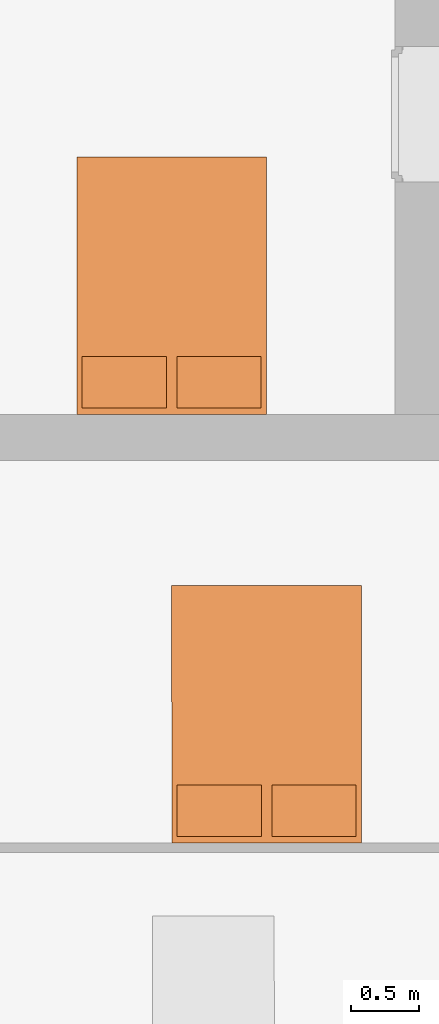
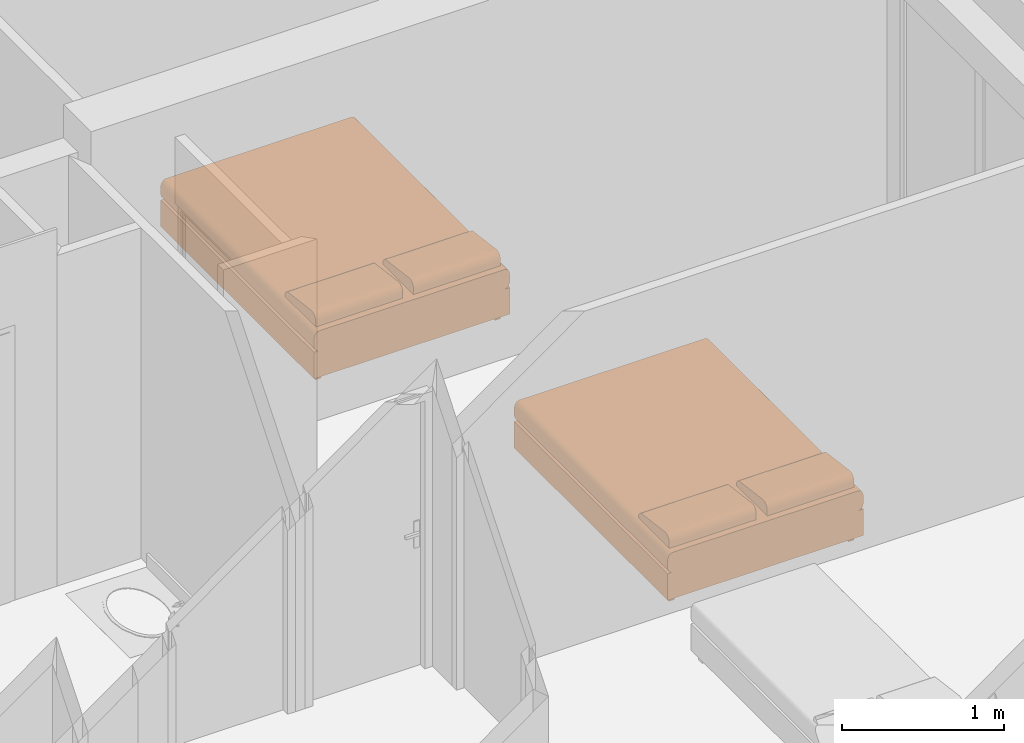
# One storey, part 154 of 171: 2 proxies.
"""IFC2X3 building model written with IfcOpenShell, lengths in millimetres."""

from ifc_helpers import new_model, entity, si_unit, converted_unit, derived_unit, money_unit, direction, frame, origin_with_axes, place, context, subcontext, project, spatial, open_shell, faceted_brep, surface_model, source, transform, mapped, type_object, element, save


model = new_model("IFC2X3")

# Units and contexts
model_context = context("Model", 3, precision=0.01, world=origin_with_axes(), true_north=direction((0.0, 1.0)))
body_context = subcontext(model_context, "Body", "Model", "MODEL_VIEW")
ifc_project = project(units=[si_unit("LENGTHUNIT", "METRE", prefix="MILLI"), si_unit("AREAUNIT", "SQUARE_METRE"), si_unit("VOLUMEUNIT", "CUBIC_METRE"), converted_unit("PLANEANGLEUNIT", "DEGREE", entity("IfcPlaneAngleMeasure", 0.0174532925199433), si_unit("PLANEANGLEUNIT", "RADIAN"), dimensions=[0, 0, 0, 0, 0, 0, 0]), money_unit("USD"), converted_unit("TIMEUNIT", "Year", entity("IfcTimeMeasure", 31557600.0), si_unit("TIMEUNIT", "SECOND"), dimensions=[0, 0, 1, 0, 0, 0, 0]), si_unit("MASSUNIT", "GRAM", prefix="KILO"), si_unit("THERMODYNAMICTEMPERATUREUNIT", "DEGREE_CELSIUS"), si_unit("LUMINOUSINTENSITYUNIT", "LUMEN"), si_unit("ENERGYUNIT", "JOULE", prefix="MEGA"), derived_unit("THERMALCONDUCTANCEUNIT", [(si_unit("POWERUNIT", "WATT"), 1), (si_unit("LENGTHUNIT", "METRE"), -1), (si_unit("THERMODYNAMICTEMPERATUREUNIT", "KELVIN"), -1)]), derived_unit("SPECIFICHEATCAPACITYUNIT", [(si_unit("ENERGYUNIT", "JOULE"), 1), (si_unit("MASSUNIT", "GRAM", prefix="KILO"), -1), (si_unit("THERMODYNAMICTEMPERATUREUNIT", "KELVIN"), -1)]), derived_unit("MASSDENSITYUNIT", [(si_unit("MASSUNIT", "GRAM", prefix="KILO"), 1), (si_unit("VOLUMEUNIT", "CUBIC_METRE"), -1)])], contexts=[model_context])

# Site, building, storey
site_placement = place(None, origin_with_axes())
site = spatial("IfcSite", under=ifc_project, at=site_placement, Name="Site", CompositionType="ELEMENT")
building_placement = place(site_placement, origin_with_axes())
building = spatial("IfcBuilding", under=site, at=building_placement, Name="Bâtiment", CompositionType="ELEMENT")
storey_placement = place(building_placement, frame((0.0, 0.0, 3000.0), z_axis=(0.0, 0.0, 1.0), x_axis=(1.0, 0.0, 0.0)))
storey = spatial("IfcBuildingStorey", under=building, at=storey_placement, Name="rdc", CompositionType="ELEMENT", Elevation=3000.0)

# Proxies
building_element_proxy_type = type_object("IfcBuildingElementProxyType", PredefinedType="NOTDEFINED")
shared_shape_1 = source(origin_with_axes(), body_context, "Body", "SurfaceModel", [
    faceted_brep([(622.2222222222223, -95.0, 0.0), (622.2222222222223, -47.5, 0.0), (661.1111111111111, -47.5, 0.0), (661.1111111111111, -95.0, 0.0), (622.2222222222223, -95.0, 50.0), (622.2222222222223, -47.5, 50.0), (661.1111111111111, -47.5, 50.0), (661.1111111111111, -95.0, 50.0)], [[[0, 1, 2, 3]], [[0, 4, 5, 1]], [[1, 5, 6, 2]], [[2, 6, 7, 3]], [[3, 7, 4, 0]], [[7, 6, 5, 4]]]),
    faceted_brep([(622.2222222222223, -1852.5, 0.0), (622.2222222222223, -1805.0, 0.0), (661.1111111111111, -1805.0, 0.0), (661.1111111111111, -1852.5, 0.0), (622.2222222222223, -1852.5, 50.0), (622.2222222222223, -1805.0, 50.0), (661.1111111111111, -1805.0, 50.0), (661.1111111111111, -1852.5, 50.0)], [[[0, 1, 2, 3]], [[0, 4, 5, 1]], [[1, 5, 6, 2]], [[2, 6, 7, 3]], [[3, 7, 4, 0]], [[7, 6, 5, 4]]]),
    faceted_brep([(-661.111111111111, -1852.5, 0.0), (-661.111111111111, -1805.0, 0.0), (-622.2222222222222, -1805.0, 0.0), (-622.2222222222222, -1852.5, 0.0), (-661.111111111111, -1852.5, 50.0), (-661.111111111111, -1805.0, 50.0), (-622.2222222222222, -1805.0, 50.0), (-622.2222222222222, -1852.5, 50.0)], [[[0, 1, 2, 3]], [[0, 4, 5, 1]], [[1, 5, 6, 2]], [[2, 6, 7, 3]], [[3, 7, 4, 0]], [[7, 6, 5, 4]]]),
    faceted_brep([(-661.111111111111, -94.99999999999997, 0.0), (-661.111111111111, -47.49999999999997, 0.0), (-622.2222222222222, -47.49999999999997, 0.0), (-622.2222222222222, -94.99999999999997, 0.0), (-661.111111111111, -94.99999999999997, 50.0), (-661.111111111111, -47.49999999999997, 50.0), (-622.2222222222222, -47.49999999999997, 50.0), (-622.2222222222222, -94.99999999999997, 50.0)], [[[0, 1, 2, 3]], [[0, 4, 5, 1]], [[1, 5, 6, 2]], [[2, 6, 7, 3]], [[3, 7, 4, 0]], [[7, 6, 5, 4]]]),
    faceted_brep([(700.0, 0.0, 50.0), (700.0, -1900.0, 50.00000000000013), (-700.0, -1900.0, 50.00000000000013), (-700.0, 0.0, 50.0), (700.0, 0.0, 250.0), (700.0, -1900.0, 250.0000000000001), (-700.0, -1900.0, 250.0000000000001), (-700.0, 0.0, 250.0)], [[[0, 1, 2, 3]], [[4, 5, 1, 0]], [[1, 5, 6, 2]], [[3, 2, 6, 7]], [[0, 3, 7, 4]], [[7, 6, 5, 4]]]),
    surface_model("IfcShellBasedSurfaceModel", [(-661.1111111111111, 0.0, 250.0), (-661.1111111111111, -1900.0, 250.0000000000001), (-667.8640957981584, -1900.0, 250.7596123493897), (-667.8640957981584, 0.0, 250.7596123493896), (661.1111111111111, -1900.0, 250.0000000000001), (667.8640957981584, -1900.0, 250.7596123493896), (674.4118944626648, -1900.0, 253.0153689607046), (680.5555555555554, -1900.0, 256.6987298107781), (686.1084070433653, -1900.0, 261.6977778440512), (690.9017283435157, -1900.0, 267.8606195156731), (694.7898768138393, -1900.0, 275.0000000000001), (697.654713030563, -1900.0, 282.8989928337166), (699.4091903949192, -1900.0, 291.3175911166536), (700.0, -1900.0, 300.0000000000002), (700.0000000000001, -1900.0, 350.0000000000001), (699.4091903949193, -1900.0, 358.6824088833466), (697.654713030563, -1900.0, 367.1010071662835), (694.7898768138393, -1900.0, 375.0000000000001), (690.9017283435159, -1900.0, 382.1393804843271), (686.1084070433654, -1900.0, 388.302222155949), (680.5555555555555, -1900.0, 393.3012701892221), (674.4118944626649, -1900.0, 396.9846310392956), (667.8640957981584, -1900.0, 399.2403876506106), (661.1111111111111, -1900.0, 400.0000000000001), (-661.111111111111, -1900.0, 400.0000000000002), (-667.8640957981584, -1900.0, 399.2403876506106), (-674.4118944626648, -1900.0, 396.9846310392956), (-680.5555555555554, -1900.0, 393.3012701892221), (-686.1084070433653, -1900.0, 388.302222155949), (-690.9017283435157, -1900.0, 382.1393804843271), (-694.7898768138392, -1900.0, 375.0000000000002), (-697.654713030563, -1900.0, 367.1010071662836), (-699.4091903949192, -1900.0, 358.6824088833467), (-700.0, -1900.0, 350.0000000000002), (-700.0, -1900.0, 300.0000000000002), (-699.4091903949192, -1900.0, 291.3175911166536), (-697.654713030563, -1900.0, 282.8989928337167), (-694.7898768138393, -1900.0, 275.0000000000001), (-690.9017283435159, -1900.0, 267.8606195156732), (-686.1084070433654, -1900.0, 261.6977778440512), (-680.5555555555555, -1900.0, 256.6987298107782), (-674.4118944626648, -1900.0, 253.0153689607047), (-674.4118944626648, 0.0, 253.0153689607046), (661.1111111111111, 0.0, 250.0), (-680.5555555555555, 0.0, 256.698729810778), (-686.1084070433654, 0.0, 261.6977778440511), (-690.9017283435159, 0.0, 267.8606195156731), (-694.7898768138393, 0.0, 275.0), (-697.654713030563, 0.0, 282.8989928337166), (-699.4091903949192, 0.0, 291.3175911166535), (-700.0, 0.0, 300.0000000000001), (-700.0, 0.0, 350.0000000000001), (-699.4091903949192, 0.0, 358.6824088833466), (-697.654713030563, 0.0, 367.1010071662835), (-694.7898768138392, 0.0, 375.0000000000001), (-690.9017283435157, 0.0, 382.139380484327), (-686.1084070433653, 0.0, 388.3022221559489), (-680.5555555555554, 0.0, 393.301270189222), (-674.4118944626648, 0.0, 396.9846310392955), (-667.8640957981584, 0.0, 399.2403876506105), (-661.111111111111, 0.0, 400.0000000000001), (661.1111111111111, 0.0, 400.0), (667.8640957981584, 0.0, 399.2403876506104), (674.4118944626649, 0.0, 396.9846310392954), (680.5555555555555, 0.0, 393.301270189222), (686.1084070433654, 0.0, 388.3022221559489), (690.9017283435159, 0.0, 382.139380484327), (694.7898768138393, 0.0, 375.0), (697.654713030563, 0.0, 367.1010071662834), (699.4091903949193, 0.0, 358.6824088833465), (700.0000000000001, 0.0, 350.0), (700.0, 0.0, 300.0000000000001), (699.4091903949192, 0.0, 291.3175911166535), (697.654713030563, 0.0, 282.8989928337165), (694.7898768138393, 0.0, 275.0), (690.9017283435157, 0.0, 267.860619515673), (686.1084070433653, 0.0, 261.6977778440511), (680.5555555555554, 0.0, 256.698729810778), (674.4118944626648, 0.0, 253.0153689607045), (667.8640957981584, 0.0, 250.7596123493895)], [open_shell([[[0, 1, 2, 3]], [[4, 5, 6, 7, 8, 9, 10, 11, 12, 13, 14, 15, 16, 17, 18, 19, 20, 21, 22, 23, 24, 25, 26, 27, 28, 29, 30, 31, 32, 33, 34, 35, 36, 37, 38, 39, 40, 41, 2, 1]], [[3, 2, 41, 42]], [[43, 0, 3, 42, 44, 45, 46, 47, 48, 49, 50, 51, 52, 53, 54, 55, 56, 57, 58, 59, 60, 61, 62, 63, 64, 65, 66, 67, 68, 69, 70, 71, 72, 73, 74, 75, 76, 77, 78, 79]], [[79, 5, 4, 43]], [[78, 6, 5, 79]], [[77, 7, 6, 78]], [[76, 8, 7, 77]], [[75, 9, 8, 76]], [[74, 10, 9, 75]], [[73, 11, 10, 74]], [[72, 12, 11, 73]], [[71, 13, 12, 72]], [[70, 14, 13, 71]], [[69, 15, 14, 70]], [[68, 16, 15, 69]], [[67, 17, 16, 68]], [[66, 18, 17, 67]], [[65, 19, 18, 66]], [[64, 20, 19, 65]], [[63, 21, 20, 64]], [[62, 22, 21, 63]], [[61, 23, 22, 62]], [[60, 24, 23, 61]], [[59, 25, 24, 60]], [[58, 26, 25, 59]], [[57, 27, 26, 58]], [[56, 28, 27, 57]], [[55, 29, 28, 56]], [[54, 30, 29, 55]], [[53, 31, 30, 54]], [[52, 32, 31, 53]], [[51, 33, 32, 52]], [[50, 34, 33, 51]], [[49, 35, 34, 50]], [[48, 36, 35, 49]], [[47, 37, 36, 48]], [[46, 38, 37, 47]], [[45, 39, 38, 46]], [[44, 40, 39, 45]], [[42, 41, 40, 44]]])]),
    faceted_brep([(-38.88888888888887, -47.49999999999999, 400.0), (-661.1111111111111, -47.50000000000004, 400.0000000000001), (-661.1111111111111, -47.50000000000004, 443.4000000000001), (-38.88888888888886, -47.49999999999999, 443.4), (-38.88888888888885, -427.5, 400.0), (-661.1111111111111, -427.5, 400.0000000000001), (-661.1111111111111, -427.6960812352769, 408.6954428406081), (-661.1111111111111, -426.4675711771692, 417.2966661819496), (-661.1111111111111, -423.8511300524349, 425.5469991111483), (-661.1111111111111, -419.924835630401, 433.2002417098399), (-661.1111111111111, -414.8058532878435, 440.0280119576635), (-661.1111111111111, -408.6469396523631, 445.826560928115), (-661.1111111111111, -401.6318841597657, 450.4228529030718), (-661.1111111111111, -393.9700245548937, 453.6797289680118), (-661.1111111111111, -385.89, 455.5000000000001), (-661.1111111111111, -100.8900000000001, 493.0000000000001), (-661.1111111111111, -92.85488048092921, 493.3370808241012), (-661.1111111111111, -84.88093291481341, 492.2422169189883), (-661.1111111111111, -77.19681007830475, 489.7468034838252), (-661.1111111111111, -70.02285403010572, 485.922396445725), (-661.1111111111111, -63.56477780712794, 480.878660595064), (-661.1111111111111, -58.00776660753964, 474.7602249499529), (-661.1111111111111, -53.51116760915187, 467.7425355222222), (-661.1111111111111, -50.20392069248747, 460.0268244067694), (-661.1111111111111, -48.18086109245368, 451.8343394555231), (-38.88888888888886, -48.18086109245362, 451.834339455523), (-38.88888888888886, -50.20392069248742, 460.0268244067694), (-38.88888888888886, -53.51116760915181, 467.7425355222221), (-38.88888888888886, -58.00776660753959, 474.7602249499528), (-38.88888888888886, -63.56477780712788, 480.878660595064), (-38.88888888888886, -70.02285403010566, 485.922396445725), (-38.88888888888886, -77.19681007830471, 489.7468034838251), (-38.88888888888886, -84.88093291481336, 492.2422169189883), (-38.88888888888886, -92.85488048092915, 493.3370808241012), (-38.88888888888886, -100.89, 493.0000000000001), (-38.88888888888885, -385.89, 455.5), (-38.88888888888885, -393.9700245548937, 453.6797289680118), (-38.88888888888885, -401.6318841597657, 450.4228529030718), (-38.88888888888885, -408.6469396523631, 445.826560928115), (-38.88888888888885, -414.8058532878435, 440.0280119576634), (-38.88888888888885, -419.9248356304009, 433.2002417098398), (-38.88888888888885, -423.8511300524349, 425.5469991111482), (-38.88888888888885, -426.4675711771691, 417.2966661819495), (-38.88888888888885, -427.6960812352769, 408.695442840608)], [[[0, 1, 2, 3]], [[4, 5, 1, 0]], [[1, 5, 6, 7, 8, 9, 10, 11, 12, 13, 14, 15, 16, 17, 18, 19, 20, 21, 22, 23, 24, 2]], [[3, 2, 24, 25]], [[0, 3, 25, 26, 27, 28, 29, 30, 31, 32, 33, 34, 35, 36, 37, 38, 39, 40, 41, 42, 43, 4]], [[43, 6, 5, 4]], [[42, 7, 6, 43]], [[41, 8, 7, 42]], [[40, 9, 8, 41]], [[39, 10, 9, 40]], [[38, 11, 10, 39]], [[37, 12, 11, 38]], [[36, 13, 12, 37]], [[35, 14, 13, 36]], [[34, 15, 14, 35]], [[33, 16, 15, 34]], [[32, 17, 16, 33]], [[31, 18, 17, 32]], [[30, 19, 18, 31]], [[29, 20, 19, 30]], [[28, 21, 20, 29]], [[27, 22, 21, 28]], [[26, 23, 22, 27]], [[25, 24, 23, 26]]]),
    faceted_brep([(661.1111111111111, -47.49999999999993, 399.9999999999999), (38.88888888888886, -47.49999999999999, 400.0), (38.88888888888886, -47.49999999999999, 443.4), (661.1111111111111, -47.49999999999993, 443.4), (661.1111111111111, -427.4999999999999, 399.9999999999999), (38.88888888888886, -427.4999999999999, 400.0), (38.88888888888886, -427.6960812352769, 408.695442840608), (38.88888888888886, -426.4675711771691, 417.2966661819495), (38.88888888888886, -423.8511300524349, 425.5469991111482), (38.88888888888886, -419.9248356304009, 433.2002417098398), (38.88888888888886, -414.8058532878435, 440.0280119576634), (38.88888888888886, -408.6469396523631, 445.826560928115), (38.88888888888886, -401.6318841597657, 450.4228529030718), (38.88888888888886, -393.9700245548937, 453.6797289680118), (38.88888888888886, -385.8899999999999, 455.5), (38.88888888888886, -100.89, 493.0000000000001), (38.88888888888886, -92.85488048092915, 493.3370808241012), (38.88888888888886, -84.88093291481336, 492.2422169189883), (38.88888888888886, -77.19681007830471, 489.7468034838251), (38.88888888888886, -70.02285403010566, 485.922396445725), (38.88888888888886, -63.56477780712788, 480.878660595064), (38.88888888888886, -58.00776660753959, 474.7602249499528), (38.88888888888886, -53.51116760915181, 467.7425355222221), (38.88888888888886, -50.20392069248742, 460.0268244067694), (38.88888888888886, -48.18086109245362, 451.834339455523), (661.1111111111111, -48.18086109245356, 451.834339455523), (661.1111111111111, -50.20392069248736, 460.0268244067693), (661.1111111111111, -53.51116760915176, 467.7425355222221), (661.1111111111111, -58.00776660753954, 474.7602249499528), (661.1111111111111, -63.56477780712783, 480.8786605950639), (661.1111111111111, -70.0228540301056, 485.9223964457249), (661.1111111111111, -77.19681007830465, 489.7468034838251), (661.1111111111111, -84.8809329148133, 492.2422169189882), (661.1111111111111, -92.8548804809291, 493.3370808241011), (661.1111111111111, -100.89, 493.0), (661.1111111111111, -385.8899999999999, 455.4999999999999), (661.1111111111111, -393.9700245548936, 453.6797289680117), (661.1111111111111, -401.6318841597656, 450.4228529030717), (661.1111111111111, -408.646939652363, 445.8265609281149), (661.1111111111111, -414.8058532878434, 440.0280119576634), (661.1111111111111, -419.9248356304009, 433.2002417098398), (661.1111111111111, -423.8511300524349, 425.5469991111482), (661.1111111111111, -426.4675711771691, 417.2966661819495), (661.1111111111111, -427.6960812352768, 408.6954428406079)], [[[0, 1, 2, 3]], [[4, 5, 1, 0]], [[1, 5, 6, 7, 8, 9, 10, 11, 12, 13, 14, 15, 16, 17, 18, 19, 20, 21, 22, 23, 24, 2]], [[3, 2, 24, 25]], [[0, 3, 25, 26, 27, 28, 29, 30, 31, 32, 33, 34, 35, 36, 37, 38, 39, 40, 41, 42, 43, 4]], [[43, 6, 5, 4]], [[42, 7, 6, 43]], [[41, 8, 7, 42]], [[40, 9, 8, 41]], [[39, 10, 9, 40]], [[38, 11, 10, 39]], [[37, 12, 11, 38]], [[36, 13, 12, 37]], [[35, 14, 13, 36]], [[34, 15, 14, 35]], [[33, 16, 15, 34]], [[32, 17, 16, 33]], [[31, 18, 17, 32]], [[30, 19, 18, 31]], [[29, 20, 19, 30]], [[28, 21, 20, 29]], [[27, 22, 21, 28]], [[26, 23, 22, 27]], [[25, 24, 23, 26]]]),
])
proxy_1_placement = place(storey_placement, frame((2230817.110860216, -646738.3651199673, 0.0), z_axis=(0.0, 0.0, 1.0), x_axis=(-0.9999999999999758, -2.201927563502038e-07, 0.0)))
element("IfcBuildingElementProxy", 1, at=proxy_1_placement, inside=storey, type_object=building_element_proxy_type, Name="Obj.-003", context=body_context, shape_type="MappedRepresentation", body=[
    mapped(shared_shape_1, transform((0.0, 0.0, 0.0))),
])
shared_shape_2 = source(origin_with_axes(), body_context, "Body", "SurfaceModel", [
    faceted_brep([(622.2222222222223, -95.0, 0.0), (622.2222222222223, -47.5, 0.0), (661.1111111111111, -47.5, 0.0), (661.1111111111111, -95.0, 0.0), (622.2222222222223, -95.0, 50.0), (622.2222222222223, -47.5, 50.0), (661.1111111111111, -47.5, 50.0), (661.1111111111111, -95.0, 50.0)], [[[0, 1, 2, 3]], [[0, 4, 5, 1]], [[1, 5, 6, 2]], [[2, 6, 7, 3]], [[3, 7, 4, 0]], [[7, 6, 5, 4]]]),
    faceted_brep([(622.2222222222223, -1852.5, 0.0), (622.2222222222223, -1805.0, 0.0), (661.1111111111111, -1805.0, 0.0), (661.1111111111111, -1852.5, 0.0), (622.2222222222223, -1852.5, 50.0), (622.2222222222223, -1805.0, 50.0), (661.1111111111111, -1805.0, 50.0), (661.1111111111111, -1852.5, 50.0)], [[[0, 1, 2, 3]], [[0, 4, 5, 1]], [[1, 5, 6, 2]], [[2, 6, 7, 3]], [[3, 7, 4, 0]], [[7, 6, 5, 4]]]),
    faceted_brep([(-661.111111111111, -1852.5, 0.0), (-661.111111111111, -1805.0, 0.0), (-622.2222222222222, -1805.0, 0.0), (-622.2222222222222, -1852.5, 0.0), (-661.111111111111, -1852.5, 50.0), (-661.111111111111, -1805.0, 50.0), (-622.2222222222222, -1805.0, 50.0), (-622.2222222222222, -1852.5, 50.0)], [[[0, 1, 2, 3]], [[0, 4, 5, 1]], [[1, 5, 6, 2]], [[2, 6, 7, 3]], [[3, 7, 4, 0]], [[7, 6, 5, 4]]]),
    faceted_brep([(-661.111111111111, -94.99999999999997, 0.0), (-661.111111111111, -47.49999999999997, 0.0), (-622.2222222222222, -47.49999999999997, 0.0), (-622.2222222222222, -94.99999999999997, 0.0), (-661.111111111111, -94.99999999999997, 50.0), (-661.111111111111, -47.49999999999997, 50.0), (-622.2222222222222, -47.49999999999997, 50.0), (-622.2222222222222, -94.99999999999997, 50.0)], [[[0, 1, 2, 3]], [[0, 4, 5, 1]], [[1, 5, 6, 2]], [[2, 6, 7, 3]], [[3, 7, 4, 0]], [[7, 6, 5, 4]]]),
    faceted_brep([(700.0, 0.0, 50.0), (700.0, -1900.0, 50.00000000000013), (-700.0, -1900.0, 50.00000000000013), (-700.0, 0.0, 50.0), (700.0, 0.0, 250.0), (700.0, -1900.0, 250.0000000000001), (-700.0, -1900.0, 250.0000000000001), (-700.0, 0.0, 250.0)], [[[0, 1, 2, 3]], [[4, 5, 1, 0]], [[1, 5, 6, 2]], [[3, 2, 6, 7]], [[0, 3, 7, 4]], [[7, 6, 5, 4]]]),
    surface_model("IfcShellBasedSurfaceModel", [(-661.1111111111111, 0.0, 250.0), (-661.1111111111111, -1900.0, 250.0000000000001), (-667.8640957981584, -1900.0, 250.7596123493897), (-667.8640957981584, 0.0, 250.7596123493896), (661.1111111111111, -1900.0, 250.0000000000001), (667.8640957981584, -1900.0, 250.7596123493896), (674.4118944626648, -1900.0, 253.0153689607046), (680.5555555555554, -1900.0, 256.6987298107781), (686.1084070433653, -1900.0, 261.6977778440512), (690.9017283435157, -1900.0, 267.8606195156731), (694.7898768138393, -1900.0, 275.0000000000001), (697.654713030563, -1900.0, 282.8989928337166), (699.4091903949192, -1900.0, 291.3175911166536), (700.0, -1900.0, 300.0000000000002), (700.0000000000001, -1900.0, 350.0000000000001), (699.4091903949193, -1900.0, 358.6824088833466), (697.654713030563, -1900.0, 367.1010071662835), (694.7898768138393, -1900.0, 375.0000000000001), (690.9017283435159, -1900.0, 382.1393804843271), (686.1084070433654, -1900.0, 388.302222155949), (680.5555555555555, -1900.0, 393.3012701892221), (674.4118944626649, -1900.0, 396.9846310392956), (667.8640957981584, -1900.0, 399.2403876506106), (661.1111111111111, -1900.0, 400.0000000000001), (-661.111111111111, -1900.0, 400.0000000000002), (-667.8640957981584, -1900.0, 399.2403876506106), (-674.4118944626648, -1900.0, 396.9846310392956), (-680.5555555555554, -1900.0, 393.3012701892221), (-686.1084070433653, -1900.0, 388.302222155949), (-690.9017283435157, -1900.0, 382.1393804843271), (-694.7898768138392, -1900.0, 375.0000000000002), (-697.654713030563, -1900.0, 367.1010071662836), (-699.4091903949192, -1900.0, 358.6824088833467), (-700.0, -1900.0, 350.0000000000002), (-700.0, -1900.0, 300.0000000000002), (-699.4091903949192, -1900.0, 291.3175911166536), (-697.654713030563, -1900.0, 282.8989928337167), (-694.7898768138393, -1900.0, 275.0000000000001), (-690.9017283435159, -1900.0, 267.8606195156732), (-686.1084070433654, -1900.0, 261.6977778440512), (-680.5555555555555, -1900.0, 256.6987298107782), (-674.4118944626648, -1900.0, 253.0153689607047), (-674.4118944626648, 0.0, 253.0153689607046), (661.1111111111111, 0.0, 250.0), (-680.5555555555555, 0.0, 256.698729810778), (-686.1084070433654, 0.0, 261.6977778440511), (-690.9017283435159, 0.0, 267.8606195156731), (-694.7898768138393, 0.0, 275.0), (-697.654713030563, 0.0, 282.8989928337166), (-699.4091903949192, 0.0, 291.3175911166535), (-700.0, 0.0, 300.0000000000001), (-700.0, 0.0, 350.0000000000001), (-699.4091903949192, 0.0, 358.6824088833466), (-697.654713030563, 0.0, 367.1010071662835), (-694.7898768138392, 0.0, 375.0000000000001), (-690.9017283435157, 0.0, 382.139380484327), (-686.1084070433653, 0.0, 388.3022221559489), (-680.5555555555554, 0.0, 393.301270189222), (-674.4118944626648, 0.0, 396.9846310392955), (-667.8640957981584, 0.0, 399.2403876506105), (-661.111111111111, 0.0, 400.0000000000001), (661.1111111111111, 0.0, 400.0), (667.8640957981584, 0.0, 399.2403876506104), (674.4118944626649, 0.0, 396.9846310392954), (680.5555555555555, 0.0, 393.301270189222), (686.1084070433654, 0.0, 388.3022221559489), (690.9017283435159, 0.0, 382.139380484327), (694.7898768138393, 0.0, 375.0), (697.654713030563, 0.0, 367.1010071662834), (699.4091903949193, 0.0, 358.6824088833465), (700.0000000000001, 0.0, 350.0), (700.0, 0.0, 300.0000000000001), (699.4091903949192, 0.0, 291.3175911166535), (697.654713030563, 0.0, 282.8989928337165), (694.7898768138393, 0.0, 275.0), (690.9017283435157, 0.0, 267.860619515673), (686.1084070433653, 0.0, 261.6977778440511), (680.5555555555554, 0.0, 256.698729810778), (674.4118944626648, 0.0, 253.0153689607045), (667.8640957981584, 0.0, 250.7596123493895)], [open_shell([[[0, 1, 2, 3]], [[4, 5, 6, 7, 8, 9, 10, 11, 12, 13, 14, 15, 16, 17, 18, 19, 20, 21, 22, 23, 24, 25, 26, 27, 28, 29, 30, 31, 32, 33, 34, 35, 36, 37, 38, 39, 40, 41, 2, 1]], [[3, 2, 41, 42]], [[43, 0, 3, 42, 44, 45, 46, 47, 48, 49, 50, 51, 52, 53, 54, 55, 56, 57, 58, 59, 60, 61, 62, 63, 64, 65, 66, 67, 68, 69, 70, 71, 72, 73, 74, 75, 76, 77, 78, 79]], [[79, 5, 4, 43]], [[78, 6, 5, 79]], [[77, 7, 6, 78]], [[76, 8, 7, 77]], [[75, 9, 8, 76]], [[74, 10, 9, 75]], [[73, 11, 10, 74]], [[72, 12, 11, 73]], [[71, 13, 12, 72]], [[70, 14, 13, 71]], [[69, 15, 14, 70]], [[68, 16, 15, 69]], [[67, 17, 16, 68]], [[66, 18, 17, 67]], [[65, 19, 18, 66]], [[64, 20, 19, 65]], [[63, 21, 20, 64]], [[62, 22, 21, 63]], [[61, 23, 22, 62]], [[60, 24, 23, 61]], [[59, 25, 24, 60]], [[58, 26, 25, 59]], [[57, 27, 26, 58]], [[56, 28, 27, 57]], [[55, 29, 28, 56]], [[54, 30, 29, 55]], [[53, 31, 30, 54]], [[52, 32, 31, 53]], [[51, 33, 32, 52]], [[50, 34, 33, 51]], [[49, 35, 34, 50]], [[48, 36, 35, 49]], [[47, 37, 36, 48]], [[46, 38, 37, 47]], [[45, 39, 38, 46]], [[44, 40, 39, 45]], [[42, 41, 40, 44]]])]),
    faceted_brep([(-38.88888888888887, -47.49999999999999, 400.0), (-661.1111111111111, -47.50000000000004, 400.0000000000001), (-661.1111111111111, -47.50000000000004, 443.4000000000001), (-38.88888888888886, -47.49999999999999, 443.4), (-38.88888888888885, -427.5, 400.0), (-661.1111111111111, -427.5, 400.0000000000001), (-661.1111111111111, -427.6960812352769, 408.6954428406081), (-661.1111111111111, -426.4675711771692, 417.2966661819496), (-661.1111111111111, -423.8511300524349, 425.5469991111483), (-661.1111111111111, -419.924835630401, 433.2002417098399), (-661.1111111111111, -414.8058532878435, 440.0280119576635), (-661.1111111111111, -408.6469396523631, 445.826560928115), (-661.1111111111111, -401.6318841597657, 450.4228529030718), (-661.1111111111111, -393.9700245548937, 453.6797289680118), (-661.1111111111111, -385.89, 455.5000000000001), (-661.1111111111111, -100.8900000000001, 493.0000000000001), (-661.1111111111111, -92.85488048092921, 493.3370808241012), (-661.1111111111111, -84.88093291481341, 492.2422169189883), (-661.1111111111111, -77.19681007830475, 489.7468034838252), (-661.1111111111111, -70.02285403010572, 485.922396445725), (-661.1111111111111, -63.56477780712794, 480.878660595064), (-661.1111111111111, -58.00776660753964, 474.7602249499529), (-661.1111111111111, -53.51116760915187, 467.7425355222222), (-661.1111111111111, -50.20392069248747, 460.0268244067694), (-661.1111111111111, -48.18086109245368, 451.8343394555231), (-38.88888888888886, -48.18086109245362, 451.834339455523), (-38.88888888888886, -50.20392069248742, 460.0268244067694), (-38.88888888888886, -53.51116760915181, 467.7425355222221), (-38.88888888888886, -58.00776660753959, 474.7602249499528), (-38.88888888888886, -63.56477780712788, 480.878660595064), (-38.88888888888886, -70.02285403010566, 485.922396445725), (-38.88888888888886, -77.19681007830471, 489.7468034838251), (-38.88888888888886, -84.88093291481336, 492.2422169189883), (-38.88888888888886, -92.85488048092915, 493.3370808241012), (-38.88888888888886, -100.89, 493.0000000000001), (-38.88888888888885, -385.89, 455.5), (-38.88888888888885, -393.9700245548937, 453.6797289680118), (-38.88888888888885, -401.6318841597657, 450.4228529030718), (-38.88888888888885, -408.6469396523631, 445.826560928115), (-38.88888888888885, -414.8058532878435, 440.0280119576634), (-38.88888888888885, -419.9248356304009, 433.2002417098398), (-38.88888888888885, -423.8511300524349, 425.5469991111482), (-38.88888888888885, -426.4675711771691, 417.2966661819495), (-38.88888888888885, -427.6960812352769, 408.695442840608)], [[[0, 1, 2, 3]], [[4, 5, 1, 0]], [[1, 5, 6, 7, 8, 9, 10, 11, 12, 13, 14, 15, 16, 17, 18, 19, 20, 21, 22, 23, 24, 2]], [[3, 2, 24, 25]], [[0, 3, 25, 26, 27, 28, 29, 30, 31, 32, 33, 34, 35, 36, 37, 38, 39, 40, 41, 42, 43, 4]], [[43, 6, 5, 4]], [[42, 7, 6, 43]], [[41, 8, 7, 42]], [[40, 9, 8, 41]], [[39, 10, 9, 40]], [[38, 11, 10, 39]], [[37, 12, 11, 38]], [[36, 13, 12, 37]], [[35, 14, 13, 36]], [[34, 15, 14, 35]], [[33, 16, 15, 34]], [[32, 17, 16, 33]], [[31, 18, 17, 32]], [[30, 19, 18, 31]], [[29, 20, 19, 30]], [[28, 21, 20, 29]], [[27, 22, 21, 28]], [[26, 23, 22, 27]], [[25, 24, 23, 26]]]),
    faceted_brep([(661.1111111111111, -47.49999999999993, 399.9999999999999), (38.88888888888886, -47.49999999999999, 400.0), (38.88888888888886, -47.49999999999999, 443.4), (661.1111111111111, -47.49999999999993, 443.4), (661.1111111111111, -427.4999999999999, 399.9999999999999), (38.88888888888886, -427.4999999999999, 400.0), (38.88888888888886, -427.6960812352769, 408.695442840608), (38.88888888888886, -426.4675711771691, 417.2966661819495), (38.88888888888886, -423.8511300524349, 425.5469991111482), (38.88888888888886, -419.9248356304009, 433.2002417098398), (38.88888888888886, -414.8058532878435, 440.0280119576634), (38.88888888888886, -408.6469396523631, 445.826560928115), (38.88888888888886, -401.6318841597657, 450.4228529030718), (38.88888888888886, -393.9700245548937, 453.6797289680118), (38.88888888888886, -385.8899999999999, 455.5), (38.88888888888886, -100.89, 493.0000000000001), (38.88888888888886, -92.85488048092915, 493.3370808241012), (38.88888888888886, -84.88093291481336, 492.2422169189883), (38.88888888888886, -77.19681007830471, 489.7468034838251), (38.88888888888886, -70.02285403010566, 485.922396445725), (38.88888888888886, -63.56477780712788, 480.878660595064), (38.88888888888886, -58.00776660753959, 474.7602249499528), (38.88888888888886, -53.51116760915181, 467.7425355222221), (38.88888888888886, -50.20392069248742, 460.0268244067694), (38.88888888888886, -48.18086109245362, 451.834339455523), (661.1111111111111, -48.18086109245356, 451.834339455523), (661.1111111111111, -50.20392069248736, 460.0268244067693), (661.1111111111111, -53.51116760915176, 467.7425355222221), (661.1111111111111, -58.00776660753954, 474.7602249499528), (661.1111111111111, -63.56477780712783, 480.8786605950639), (661.1111111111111, -70.0228540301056, 485.9223964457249), (661.1111111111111, -77.19681007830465, 489.7468034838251), (661.1111111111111, -84.8809329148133, 492.2422169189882), (661.1111111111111, -92.8548804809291, 493.3370808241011), (661.1111111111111, -100.89, 493.0), (661.1111111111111, -385.8899999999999, 455.4999999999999), (661.1111111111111, -393.9700245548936, 453.6797289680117), (661.1111111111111, -401.6318841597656, 450.4228529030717), (661.1111111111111, -408.646939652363, 445.8265609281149), (661.1111111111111, -414.8058532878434, 440.0280119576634), (661.1111111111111, -419.9248356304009, 433.2002417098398), (661.1111111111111, -423.8511300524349, 425.5469991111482), (661.1111111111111, -426.4675711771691, 417.2966661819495), (661.1111111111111, -427.6960812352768, 408.6954428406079)], [[[0, 1, 2, 3]], [[4, 5, 1, 0]], [[1, 5, 6, 7, 8, 9, 10, 11, 12, 13, 14, 15, 16, 17, 18, 19, 20, 21, 22, 23, 24, 2]], [[3, 2, 24, 25]], [[0, 3, 25, 26, 27, 28, 29, 30, 31, 32, 33, 34, 35, 36, 37, 38, 39, 40, 41, 42, 43, 4]], [[43, 6, 5, 4]], [[42, 7, 6, 43]], [[41, 8, 7, 42]], [[40, 9, 8, 41]], [[39, 10, 9, 40]], [[38, 11, 10, 39]], [[37, 12, 11, 38]], [[36, 13, 12, 37]], [[35, 14, 13, 36]], [[34, 15, 14, 35]], [[33, 16, 15, 34]], [[32, 17, 16, 33]], [[31, 18, 17, 32]], [[30, 19, 18, 31]], [[29, 20, 19, 30]], [[28, 21, 20, 29]], [[27, 22, 21, 28]], [[26, 23, 22, 27]], [[25, 24, 23, 26]]]),
])
proxy_2_placement = place(storey_placement, frame((2231517.794430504, -649902.5706002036, 0.0), z_axis=(0.0, 0.0, 1.0), x_axis=(-0.9999999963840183, -8.504095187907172e-05, 0.0)))
element("IfcBuildingElementProxy", 2, at=proxy_2_placement, inside=storey, type_object=building_element_proxy_type, Name="Obj.-003", context=body_context, shape_type="MappedRepresentation", body=[
    mapped(shared_shape_2, transform((0.0, 0.0, 0.0))),
])

save(model, "model.ifc")
